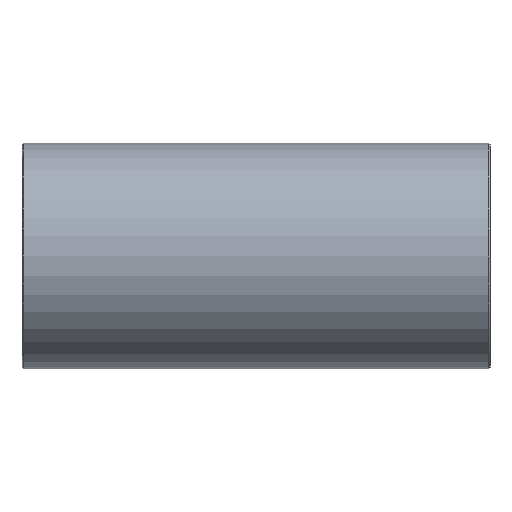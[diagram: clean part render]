
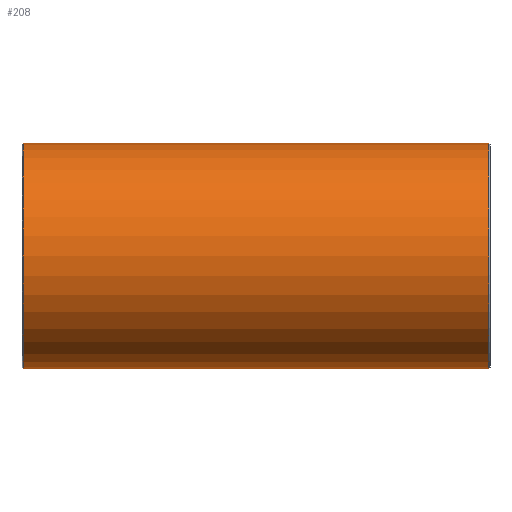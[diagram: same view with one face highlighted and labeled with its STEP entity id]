
A CAD part, front view. The second image highlights one B-rep face of the part: STEP entity #208.
In plain terms, the highlighted cylindrical face has radius 16.25 mm (diameter 32.5 mm), a full revolution.
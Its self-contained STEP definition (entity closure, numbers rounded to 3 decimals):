
#73=CARTESIAN_POINT('',(33.5,16.25,0.));
#74=VERTEX_POINT('',#73);
#75=CARTESIAN_POINT('',(33.5,0.0,0.0));
#76=DIRECTION('',(1.0,0.0,0.0));
#77=DIRECTION('',(0.0,-1.0,0.0));
#78=AXIS2_PLACEMENT_3D('',#75,#76,#77);
#79=CIRCLE('',#78,16.25);
#80=EDGE_CURVE('',#74,#74,#79,.T.);
#116=CARTESIAN_POINT('',(0.,0.0,0.0));
#117=DIRECTION('',(1.0,0.0,0.0));
#118=DIRECTION('',(0.0,1.0,0.0));
#119=AXIS2_PLACEMENT_3D('',#116,#117,#118);
#120=CYLINDRICAL_SURFACE('',#119,16.25);
#121=CARTESIAN_POINT('',(-33.5,16.25,0.));
#122=VERTEX_POINT('',#121);
#123=CARTESIAN_POINT('',(-33.5,0.0,0.0));
#124=DIRECTION('',(-1.0,0.0,0.0));
#125=DIRECTION('',(0.0,-1.0,0.0));
#126=AXIS2_PLACEMENT_3D('',#123,#124,#125);
#127=CIRCLE('',#126,16.25);
#128=EDGE_CURVE('',#122,#122,#127,.T.);
#129=ORIENTED_EDGE('',*,*,#128,.F.);
#130=EDGE_LOOP('',(#129));
#131=FACE_OUTER_BOUND('',#130,.T.);
#132=CARTESIAN_POINT('',(0.,9.295,13.329));
#133=VERTEX_POINT('',#132);
#134=CARTESIAN_POINT('',(0.,9.295,13.329));
#135=CARTESIAN_POINT('',(0.643,9.295,13.329));
#136=CARTESIAN_POINT('',(1.605,9.364,13.282));
#137=CARTESIAN_POINT('',(2.857,9.578,13.128));
#138=CARTESIAN_POINT('',(4.372,9.93,12.867));
#139=CARTESIAN_POINT('',(5.733,10.403,12.494));
#140=CARTESIAN_POINT('',(6.808,10.851,12.097));
#141=CARTESIAN_POINT('',(7.732,11.253,11.73));
#142=CARTESIAN_POINT('',(8.787,11.764,11.228));
#143=CARTESIAN_POINT('',(10.175,12.502,10.397));
#144=CARTESIAN_POINT('',(11.363,13.177,9.536));
#145=CARTESIAN_POINT('',(12.408,13.804,8.598));
#146=CARTESIAN_POINT('',(13.235,14.316,7.706));
#147=CARTESIAN_POINT('',(14.107,14.867,6.611));
#148=CARTESIAN_POINT('',(15.032,15.469,5.106));
#149=CARTESIAN_POINT('',(15.81,15.987,3.149));
#150=CARTESIAN_POINT('',(16.15,16.216,1.404));
#151=CARTESIAN_POINT('',(16.217,16.261,-0.005));
#152=CARTESIAN_POINT('',(16.148,16.215,-1.422));
#153=CARTESIAN_POINT('',(15.808,15.986,-3.154));
#154=CARTESIAN_POINT('',(15.152,15.549,-4.802));
#155=CARTESIAN_POINT('',(14.472,15.105,-6.017));
#156=CARTESIAN_POINT('',(13.693,14.603,-7.177));
#157=CARTESIAN_POINT('',(12.774,14.026,-8.241));
#158=CARTESIAN_POINT('',(11.745,13.406,-9.197));
#159=CARTESIAN_POINT('',(10.653,12.769,-10.076));
#160=CARTESIAN_POINT('',(9.452,12.108,-10.857));
#161=CARTESIAN_POINT('',(8.156,11.458,-11.53));
#162=CARTESIAN_POINT('',(7.136,10.986,-11.979));
#163=CARTESIAN_POINT('',(6.073,10.543,-12.37));
#164=CARTESIAN_POINT('',(4.569,9.999,-12.818));
#165=CARTESIAN_POINT('',(2.568,9.461,-13.215));
#166=CARTESIAN_POINT('',(0.427,9.253,-13.358));
#167=CARTESIAN_POINT('',(-1.29,9.336,-13.301));
#168=CARTESIAN_POINT('',(-2.55,9.511,-13.177));
#169=CARTESIAN_POINT('',(-3.778,9.786,-12.975));
#170=CARTESIAN_POINT('',(-5.336,10.251,-12.616));
#171=CARTESIAN_POINT('',(-7.164,10.975,-12.006));
#172=CARTESIAN_POINT('',(-8.831,11.786,-11.206));
#173=CARTESIAN_POINT('',(-10.054,12.439,-10.465));
#174=CARTESIAN_POINT('',(-11.219,13.092,-9.652));
#175=CARTESIAN_POINT('',(-12.554,13.888,-8.496));
#176=CARTESIAN_POINT('',(-14.068,14.839,-6.743));
#177=CARTESIAN_POINT('',(-15.137,15.539,-4.903));
#178=CARTESIAN_POINT('',(-15.675,15.897,-3.413));
#179=CARTESIAN_POINT('',(-15.979,16.101,-2.283));
#180=CARTESIAN_POINT('',(-16.217,16.262,-0.883));
#181=CARTESIAN_POINT('',(-16.217,16.261,0.71));
#182=CARTESIAN_POINT('',(-16.012,16.123,2.113));
#183=CARTESIAN_POINT('',(-15.679,15.9,3.477));
#184=CARTESIAN_POINT('',(-15.155,15.551,4.796));
#185=CARTESIAN_POINT('',(-14.47,15.103,6.021));
#186=CARTESIAN_POINT('',(-13.694,14.604,7.175));
#187=CARTESIAN_POINT('',(-12.665,13.958,8.369));
#188=CARTESIAN_POINT('',(-11.35,13.169,9.547));
#189=CARTESIAN_POINT('',(-10.059,12.437,10.48));
#190=CARTESIAN_POINT('',(-8.662,11.7,11.294));
#191=CARTESIAN_POINT('',(-7.145,10.98,11.991));
#192=CARTESIAN_POINT('',(-5.53,10.324,12.557));
#193=CARTESIAN_POINT('',(-3.783,9.769,12.99));
#194=CARTESIAN_POINT('',(-1.929,9.387,13.265));
#195=CARTESIAN_POINT('',(-0.643,9.295,13.329));
#196=CARTESIAN_POINT('',(0.,9.295,13.329));
#197=CARTESIAN_POINT('',(0.,9.295,13.329));
#198=CARTESIAN_POINT('',(0.,9.295,13.329));
#199=CARTESIAN_POINT('',(0.,9.295,13.329));
#200=B_SPLINE_CURVE_WITH_KNOTS('',3,(#134,#135,#136,#137,#138,#139,#140,#141,#142,#143,#144,#145,#146,#147,#148,#149,#150,#151,#152,#153,#154,#155,#156,#157,#158,#159,#160,#161,#162,#163,#164,#165,#166,#167,#168,#169,#170,#171,#172,#173,#174,#175,#176,#177,#178,#179,#180,#181,#182,#183,#184,#185,#186,#187,#188,#189,#190,#191,#192,#193,#194,#195,#196,#197,#198,#199),.UNSPECIFIED.,.T.,.U.,(4,1,1,1,1,1,1,1,1,1,1,1,1,1,1,1,1,1,1,1,1,1,1,1,1,1,1,1,1,1,1,1,1,1,1,1,1,1,1,1,1,1,1,1,1,1,1,1,1,1,1,1,1,1,1,1,1,1,1,1,3,4),(-8.163,-8.017,-7.944,-7.872,-7.653,-7.598,-7.58,-7.398,-7.288,-7.143,-6.997,-6.9,-6.803,-6.608,-6.414,-6.22,-6.122,-6.025,-5.831,-5.636,-5.539,-5.442,-5.248,-5.151,-5.053,-4.859,-4.762,-4.665,-4.567,-4.47,-4.276,-4.082,-3.984,-3.887,-3.79,-3.693,-3.498,-3.304,-3.207,-3.11,-2.915,-2.721,-2.462,-2.332,-2.284,-2.138,-1.944,-1.846,-1.749,-1.555,-1.458,-1.361,-1.166,-1.02,-0.875,-0.729,-0.583,-0.437,-0.292,-0.146,0.0,0.),.UNSPECIFIED.);
#201=EDGE_CURVE('',#133,#133,#200,.T.);
#202=ORIENTED_EDGE('',*,*,#201,.F.);
#203=EDGE_LOOP('',(#202));
#204=FACE_BOUND('',#203,.T.);
#205=ORIENTED_EDGE('',*,*,#80,.F.);
#206=EDGE_LOOP('',(#205));
#207=FACE_BOUND('',#206,.T.);
#208=ADVANCED_FACE('',(#131,#204,#207),#120,.T.);
